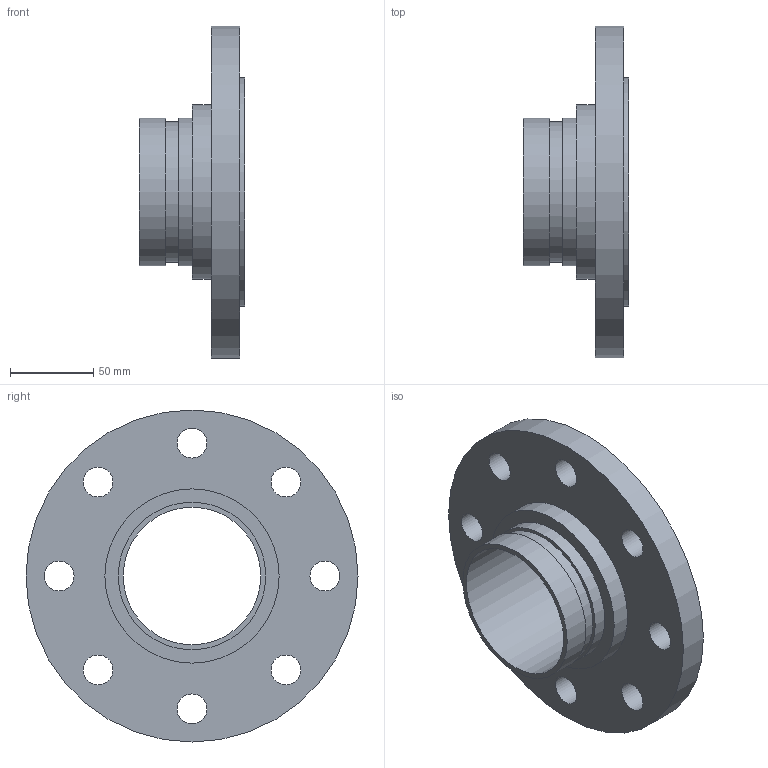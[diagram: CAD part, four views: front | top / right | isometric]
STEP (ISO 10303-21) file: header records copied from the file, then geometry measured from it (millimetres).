
FILE_DESCRIPTION(/* description */ ('VIC FLANGE ADAPTER STYLE 441N','CAx-IF Rec.Pracs.---Representation and Presentation of Product Manufacturing Information (PMI)---4.0---2014-10-13'),/* implementation_level */ '2;1');
FILE_NAME(/* name */ 'C:\Users\kkamble\AppData\Roaming\Autodesk\ApplicationPlugins\Back Up\Victaulic_SS-OGS_Flanged Adapter Nipple_PN10_Style 441N (OGSxFLG)\Victaulic_SS-OGS_Flanged Adapter Nipple_PN10_Style 441N (OGSxFLG)_3 (80).stp',/* time_stamp */ '2020-08-27T09:31:45+05:00',/* author */ ('jbrannon'),/* organization */ ('Victaulic'),/* preprocessor_version */ 'ST-DEVELOPER v17.2',/* originating_system */ 'Autodesk Inventor 2019',/* authorisation */ '');
FILE_SCHEMA (('AP242_MANAGED_MODEL_BASED_3D_ENGINEERING_MIM_LF { 1 0 10303 442 1 1 4 }'));
Length unit declared in the file: inch
Products named in the file (1): 441N-03.0
Bounding box: 63.5 x 199.9 x 199.9 mm (x, y, z)
Volume: 496041.6 mm3; surface area: 97838.8 mm2
Topology: 1 solids, 1 shells, 22 faces, 59 edges, 44 vertices
Faces by surface type: cylinder 15, plane 7
Full cylindrical faces by diameter (mm): 18.034 x8, 82.804 x1, 84.938 x1, 88.9 x2, 104.902 x1, 137.922 x1, 199.898 x1
Entity records: 929 total; most frequent: DIRECTION 175, CARTESIAN_POINT 143, ORIENTED_EDGE 118, AXIS2_PLACEMENT_3D 80, EDGE_CURVE 59, EDGE_LOOP 45, CIRCLE 44, VERTEX_POINT 44
